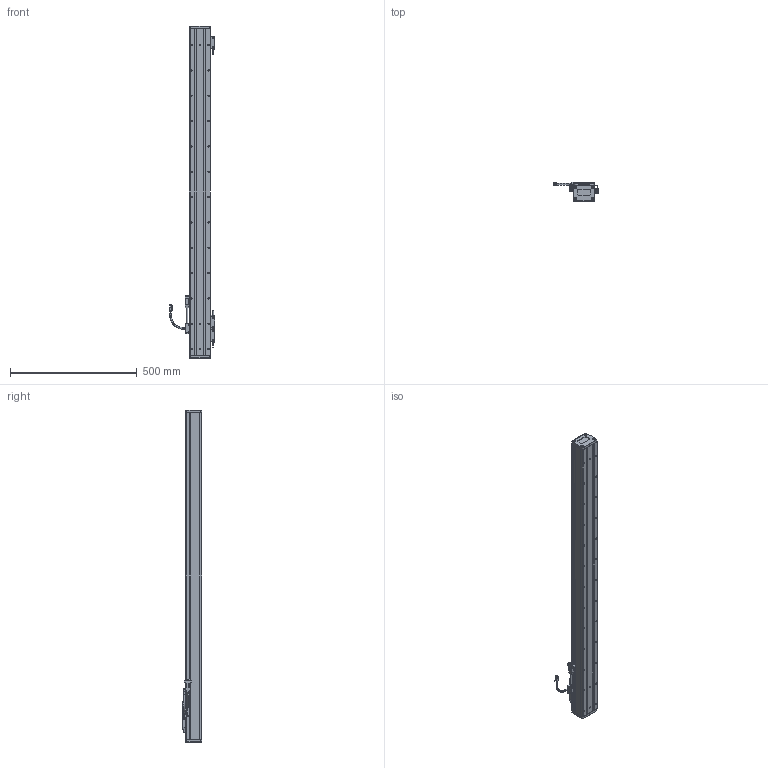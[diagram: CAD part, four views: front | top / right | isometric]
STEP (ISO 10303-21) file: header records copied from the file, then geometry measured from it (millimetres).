
FILE_DESCRIPTION(('Open CASCADE Model'),'2;1');
FILE_NAME('Open CASCADE Shape Model','2025-11-07T02:33:48',('Author'),( 'Open CASCADE'),'Open CASCADE STEP processor 7.6','Open CASCADE 7.6' ,'Unknown');
FILE_SCHEMA(('AUTOMOTIVE_DESIGN { 1 0 10303 214 1 1 1 1 }'));
Length unit declared in the file: millimetre
Products named in the file (24): Open CASCADE STEP translator 7.6 186; Open CASCADE STEP translator 7.6 186.1; Open CASCADE STEP translator 7.6 186.2; Open CASCADE STEP translator 7.6 186.3; Open CASCADE STEP translator 7.6 186.4; Open CASCADE STEP translator 7.6 186.5; Open CASCADE STEP translator 7.6 186.6; Open CASCADE STEP translator 7.6 186.7; Open CASCADE STEP translator 7.6 186.7.1; Open CASCADE STEP translator 7.6 186.7.1.1; Open CASCADE STEP translator 7.6 186.7.1.2; Open CASCADE STEP translator 7.6 186.8; Open CASCADE STEP translator 7.6 186.9; Open CASCADE STEP translator 7.6 186.10; Open CASCADE STEP translator 7.6 186.10.1; Open CASCADE STEP translator 7.6 186.10.1.1; Open CASCADE STEP translator 7.6 186.10.1.2; Open CASCADE STEP translator 7.6 186.10.1.3; Open CASCADE STEP translator 7.6 186.11; Open CASCADE STEP translator 7.6 186.12; Open CASCADE STEP translator 7.6 186.13; Open CASCADE STEP translator 7.6 186.14; Open CASCADE STEP translator 7.6 186.15; Open CASCADE STEP translator 7.6 186.16
Assembly tree (23 placements, depth 4):
  Open CASCADE STEP translator 7.6 186
    Open CASCADE STEP translator 7.6 186.1
    Open CASCADE STEP translator 7.6 186.2
    Open CASCADE STEP translator 7.6 186.3
    Open CASCADE STEP translator 7.6 186.4
    Open CASCADE STEP translator 7.6 186.5
    Open CASCADE STEP translator 7.6 186.6
    Open CASCADE STEP translator 7.6 186.7
      Open CASCADE STEP translator 7.6 186.7.1
        Open CASCADE STEP translator 7.6 186.7.1.1
        Open CASCADE STEP translator 7.6 186.7.1.2
    Open CASCADE STEP translator 7.6 186.8
    Open CASCADE STEP translator 7.6 186.9
    Open CASCADE STEP translator 7.6 186.10
      Open CASCADE STEP translator 7.6 186.10.1
        Open CASCADE STEP translator 7.6 186.10.1.1
        Open CASCADE STEP translator 7.6 186.10.1.2
        Open CASCADE STEP translator 7.6 186.10.1.3
    Open CASCADE STEP translator 7.6 186.11
    Open CASCADE STEP translator 7.6 186.12
    Open CASCADE STEP translator 7.6 186.13
    Open CASCADE STEP translator 7.6 186.14
    Open CASCADE STEP translator 7.6 186.15
    Open CASCADE STEP translator 7.6 186.16
Bounding box: 181.25 x 78 x 1310 mm (x, y, z)
Volume: 3880095.4 mm3; surface area: 819009.1 mm2
Topology: 19 solids, 19 shells, 1970 faces, 5001 edges, 3181 vertices
Faces by surface type: plane 1088, cylinder 680, cone 112, torus 54, bspline 30, sphere 6
Entity records: 136907 total; most frequent: CARTESIAN_POINT 36861, DIRECTION 18937, LINE 11698, VECTOR 11698, ORIENTED_EDGE 9904, PCURVE 9904, DEFINITIONAL_REPRESENTATION 9904, EDGE_CURVE 4952
